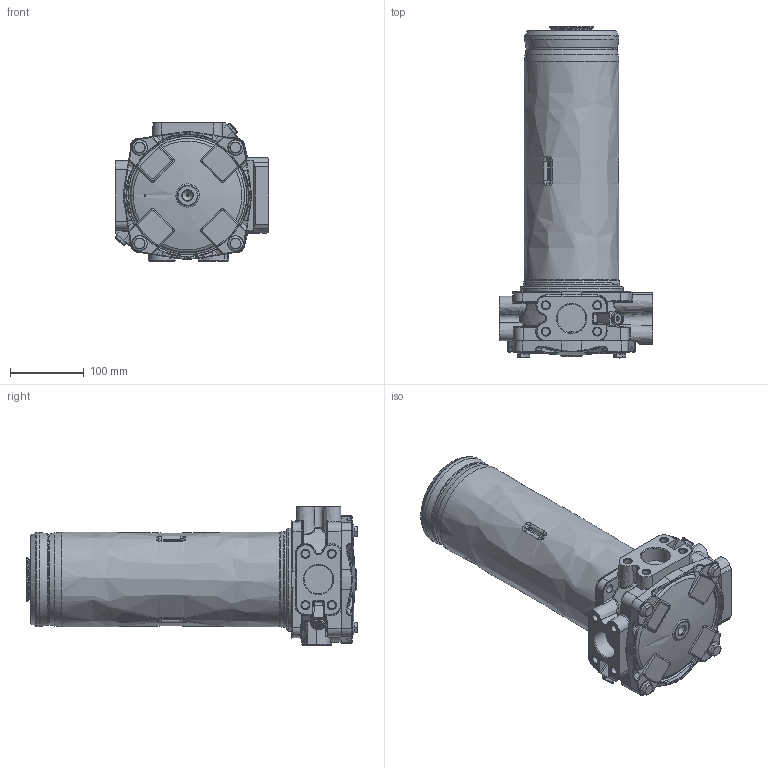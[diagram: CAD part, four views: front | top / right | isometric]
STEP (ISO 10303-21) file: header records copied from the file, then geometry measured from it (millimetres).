
FILE_DESCRIPTION((''),'2;1');
FILE_NAME('U:\Users\i.maeder\W\30370800_E453_4A.stp', '2014-06-18T14:22:07',('User'),('SDRC'),'I-DEAS Master Series 9','UNIX', 'Yes');
FILE_SCHEMA(('AUTOMOTIVE_DESIGN { 1 0 10303 214 1 1 1 1 }'));
Length unit declared in the file: millimetre
Products named in the file (1): 30370800(340396)
Bounding box: 209 x 450.4 x 187.5 mm (x, y, z)
Volume: 6847619.2 mm3; surface area: 328116.9 mm2
Topology: 1 solids, 32 shells, 1583 faces, 4044 edges, 2596 vertices
Faces by surface type: bspline 1583
Entity records: 63616 total; most frequent: CARTESIAN_POINT 41707, ORIENTED_EDGE 7644, EDGE_CURVE 3822, VERTEX_POINT 2349, B_SPLINE_CURVE_WITH_KNOTS 2116, EDGE_LOOP 1649, FACE_OUTER_BOUND 1583, ADVANCED_FACE 1583
